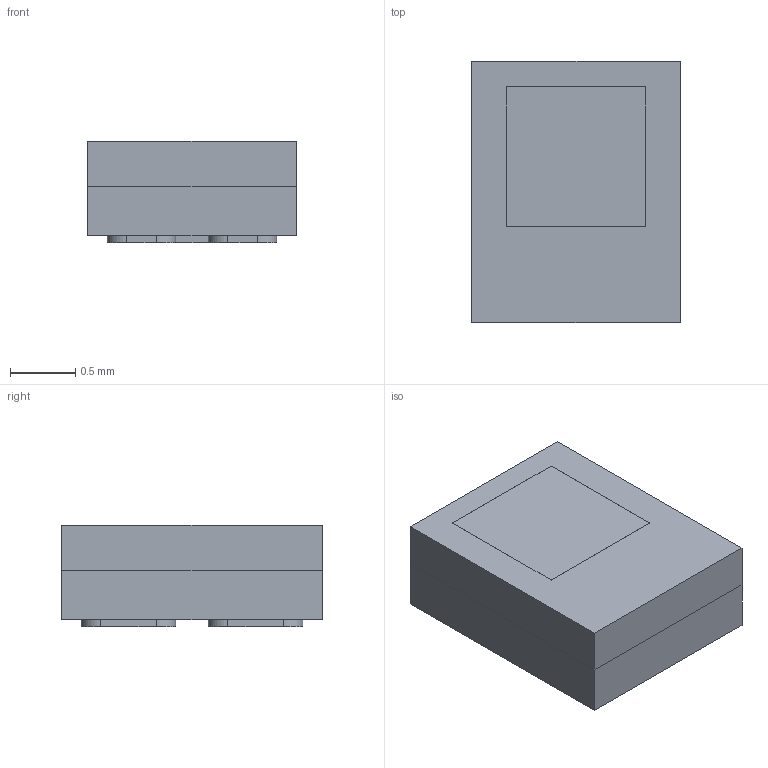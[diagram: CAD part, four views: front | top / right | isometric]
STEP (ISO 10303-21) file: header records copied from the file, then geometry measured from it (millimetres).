
FILE_DESCRIPTION (( 'STEP AP214' ), '1' );
FILE_NAME ('ASL1.STEP', '2025-04-03T03:10:48', ( '' ), ( '' ), 'SwSTEP 2.0', 'SolidWorks 2022', '' );
FILE_SCHEMA (( 'AUTOMOTIVE_DESIGN' ));
Length unit declared in the file: millimetre
Products named in the file (1): ASL1
Bounding box: 1.6 x 2 x 0.78 mm (x, y, z)
Volume: 2.3 mm3; surface area: 28 mm2
Topology: 12 solids, 12 shells, 93 faces, 207 edges, 138 vertices
Faces by surface type: plane 66, cylinder 27
Entity records: 3751 total; most frequent: DIRECTION 449, CARTESIAN_POINT 439, ORIENTED_EDGE 414, EDGE_CURVE 207, LINE 153, VECTOR 153, AXIS2_PLACEMENT_3D 148, VERTEX_POINT 138
